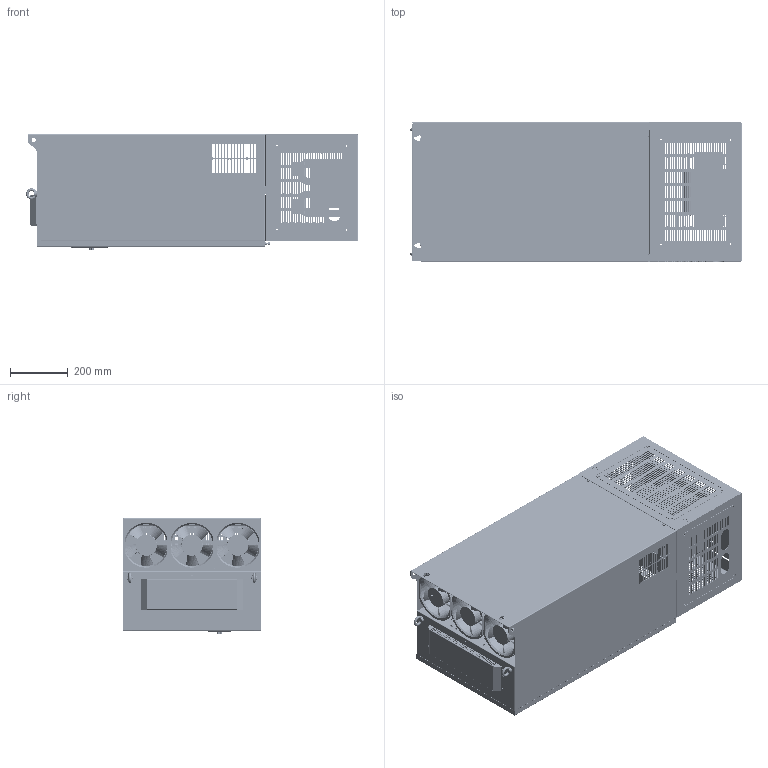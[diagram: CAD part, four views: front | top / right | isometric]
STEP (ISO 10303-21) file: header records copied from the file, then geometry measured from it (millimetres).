
FILE_DESCRIPTION((''),'2;1');
FILE_NAME('160-200KW_3D_ASM__________ASM_1_ASM','2022-07-18T',('Administrator'),(''),'PRO/ENGINEER BY PARAMETRIC TECHNOLOGY CORPORATION, 2010280','PRO/ENGINEER BY PARAMETRIC TECHNOLOGY CORPORATION, 2010280','');
FILE_SCHEMA(('AUTOMOTIVE_DESIGN_CC2 { 1 2 10303 214 -1 1 5 2 }'));
Products named in the file (93): 5G3TV3F026_______A_PI500_16_AF0; 5G3TV3F001______PI500_160-96206; 5G3TV3F001______PI500_160-97721_ASM; ________M4_1_1; 5G3TV3F013__________PI500_160-2; 5G3TV3F013___________PI500_160-_ASM; ____1-291311_1_1; ____3-554786_1_1; ____4-585435_1_1; ____2-647140_1_1; ____5-814826_1_1; 5G3TV3F003_ASM_1_ASM_1_ASM; ____44_1_1; ____-____1_1_AF0_1; ____40-720200_1_1; 5G3TV3F002______PI500_160-2_AF0_ASM; 5G3TV2F001______PI500_160-2_AF0_ASM; ____8-134895_1_1; ____5-223303_1_1; ____4-311871_1_1; ____6-350807_1_1; ____2-457968_1_1; ____3-460184_1_1; ____1-713964_1_1; ____7-830190_1_1; 5G3TV3F031_ASM_1_ASM_1_ASM; GB825-88_M8_1_1; 5G3TV3F011_1_1; 5G3TV3F027_1_AF0_1; ____6-122532_1_1; ____4-151322_1_1; ____3-312919_1_1; ____5-430079_1_1; ____1-451763_1_1; ____2-579212_1_1; ____7-653350_1_1; 5G3TV3F016_ASM_1_ASM_1_ASM; 5G3TV3F028______PI500_160-220KW; PF31-M4-16_1_1; 5G3TV2F004_ASM_2_ASM_1_ASM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
Assembly tree (101 placements, depth 5):
  160-200KW_3D_ASM__________ASM_1_ASM
    5G3TV1F001_ASM_6_AF0_ASM_1_ASM
      5G3TV3F026_______A_PI500_16_AF0
      5G3TV2F001______PI500_160-2_AF0_ASM
        5G3TV3F001______PI500_160-97721_ASM
          5G3TV3F001______PI500_160-96206
        5G3TV3F013___________PI500_160-_ASM
          ________M4_1_1  x2
          5G3TV3F013__________PI500_160-2
        5G3TV3F003_ASM_1_ASM_1_ASM
          ____1-291311_1_1
          ____3-554786_1_1
          ____4-585435_1_1
          ____2-647140_1_1
          ____5-814826_1_1
        5G3TV3F002______PI500_160-2_AF0_ASM
          ____44_1_1
          ____-____1_1_AF0_1
          ____40-720200_1_1
      5G3TV3F031_ASM_1_ASM_1_ASM
        ____8-134895_1_1
        ____5-223303_1_1
        ____4-311871_1_1
        ____6-350807_1_1
        ____2-457968_1_1
        ____3-460184_1_1
        ____1-713964_1_1
        ____7-830190_1_1
      GB825-88_M8_1_1  x2
      5G3TV3F011_1_1
      5G3TV3F027_1_AF0_1
      5G3TV3F016_ASM_1_ASM_1_ASM
        ____6-122532_1_1
        ____4-151322_1_1
        ____3-312919_1_1
        ____5-430079_1_1
        ____1-451763_1_1
        ____2-579212_1_1
        ____7-653350_1_1
      5G3TV2F004_ASM_2_ASM_1_ASM
        5G3TV3F028______PI500_160-220KW
        PF31-M4-16_1_1  x2
    5G3TV3R002_______B_PI500_160-22
    5G3TV3R001_1
    ____DCL-0600-_____ASM_2_ASM_1_ASM
      _11_0__11________1_2__1_1
      ____-____7_1__1_1
      ____-____2_1_1
      ____-____7_2__1_1
      _11_0__11________1_1__1_1
      ____-____8_1_1
    5G3TW1F002_ASM_______ASM_2_AF0__ASM
      5G3TV3F075_1_1  x2
      5G3TV3F076_1_1  x2
      5G3TW2F010_ASM_______ASM_1_AF0__ASM
        5G3TV3F073-441465_ASM_1_ASM_1_ASM  x2
          5G3TV3F073-140150_1_1
        5G3TV3F070-745713_ASM_1_AF0_ASM_ASM
          5G3TV3F070-135701_1_AF0_1
        5G3TV3F074-418975_ASM_1_ASM_1_ASM  x2
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Bounding box: 1147.1 x 480 x 401.44 mm (x, y, z)
Volume: 17054417.6 mm3; surface area: 15685870.9 mm2
Topology: 77 solids, 89 shells, 9958 faces, 30996 edges, 21768 vertices
Faces by surface type: plane 4860, cylinder 4264, extrusion 421, bspline 190, cone 130, torus 65, sphere 26, revolution 2
Entity records: 321964 total; most frequent: CARTESIAN_POINT 60760, DIRECTION 45732, ORIENTED_EDGE 45090, EDGE_CURVE 22577, AXIS2_PLACEMENT_3D 15645, VERTEX_POINT 15214, VECTOR 14440, LINE 14297
